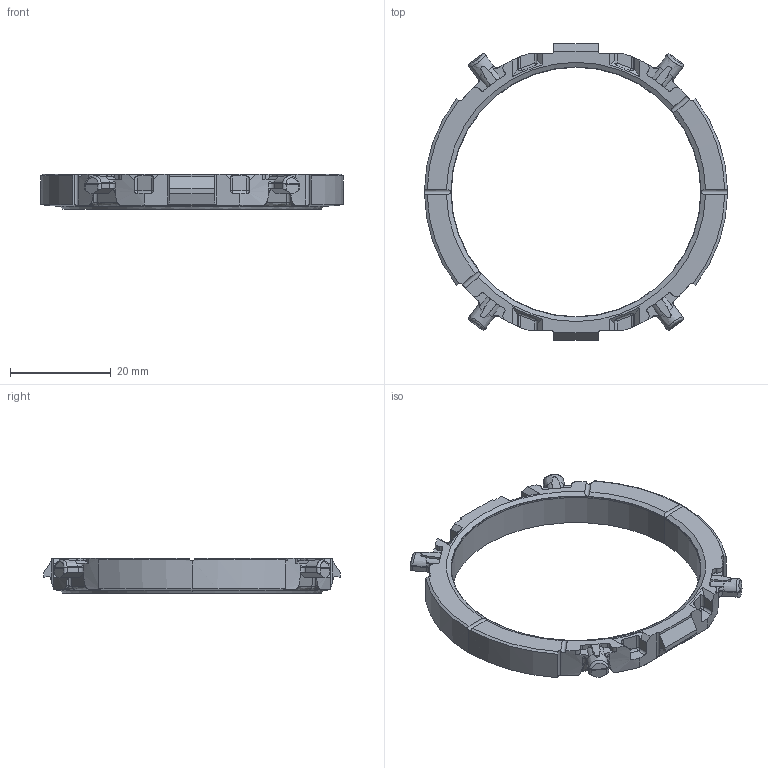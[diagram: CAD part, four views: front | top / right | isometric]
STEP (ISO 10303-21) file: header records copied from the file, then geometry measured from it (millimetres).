
FILE_DESCRIPTION(('HOOPS Exchange Step'),'2;1');
FILE_NAME('C:\Temp\3D data Important Information\HELLA_3D_data_Bracket_PUR_liquid_adhesive_sintered_metal_9XD-748-921-01.stp','2022-06-24T13:18:43+02:00',('gotsje1'),('Unknown organisation'),'HOOPS Exchange 2021.2','HOOPS Exchange','Unknown authorisation');
FILE_SCHEMA( ('AUTOMOTIVE_DESIGN { 1 0 10303 214 1 1 1 1 }') );
Length unit declared in the file: millimetre
Products named in the file (1): 10000146434_D10_001
Bounding box: 60.2 x 59 x 7 mm (x, y, z)
Volume: 4851.7 mm3; surface area: 4043 mm2
Topology: 1 solids, 1 shells, 387 faces, 1135 edges, 735 vertices
Faces by surface type: plane 158, cylinder 135, bspline 76, cone 12, sphere 6
Entity records: 17493 total; most frequent: CARTESIAN_POINT 8179, ORIENTED_EDGE 2242, DIRECTION 1412, EDGE_CURVE 1121, VERTEX_POINT 735, B_SPLINE_CURVE_WITH_KNOTS 513, AXIS2_PLACEMENT_3D 492, VECTOR 428
